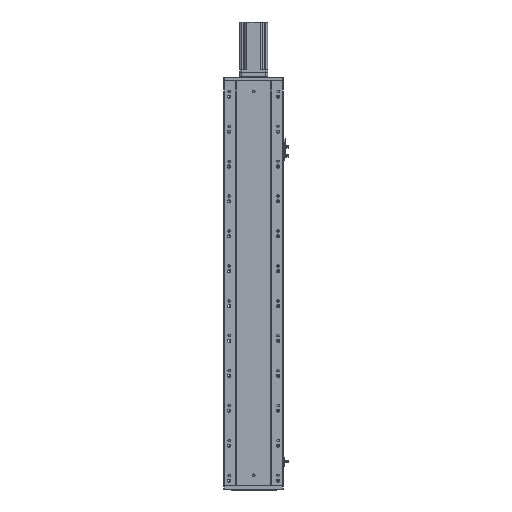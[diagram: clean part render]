
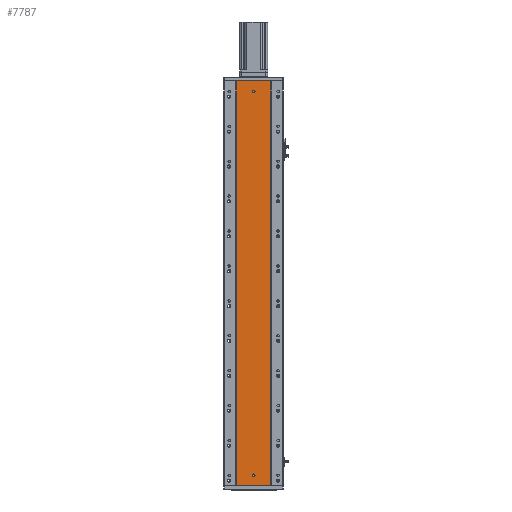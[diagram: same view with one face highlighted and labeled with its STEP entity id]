
A CAD part, front view. The second image highlights one B-rep face of the part: STEP entity #7787.
In plain terms, the highlighted planar face has unit normal (0, -1, 0).
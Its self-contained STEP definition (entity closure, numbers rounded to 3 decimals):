
#2269 = CARTESIAN_POINT ( 'NONE',  ( 86.97, 79.476, 773.333 ) ) ;
#2892 = LINE ( 'NONE', #17102, #9362 ) ;
#3031 = DIRECTION ( 'NONE',  ( 0., 0., 1. ) ) ;
#3410 = VERTEX_POINT ( 'NONE', #67986 ) ;
#4419 = DIRECTION ( 'NONE',  ( 1., 0., 0. ) ) ;
#4505 = CARTESIAN_POINT ( 'NONE',  ( 185.97, 79.476, 773.333 ) ) ;
#4956 = VERTEX_POINT ( 'NONE', #10331 ) ;
#6942 = EDGE_LOOP ( 'NONE', ( #61838, #47472, #66153, #36035 ) ) ;
#7100 = CARTESIAN_POINT ( 'NONE',  ( 136.47, 79.476, 1130. ) ) ;
#7787 = ADVANCED_FACE ( 'NONE', ( #21523, #26175, #19669 ), #32038, .F. ) ;
#8013 = AXIS2_PLACEMENT_3D ( 'NONE', #48862, #43734, #3031 ) ;
#8146 = CIRCLE ( 'NONE', #68689, 4. ) ;
#8675 = CARTESIAN_POINT ( 'NONE',  ( 86.97, 79.476, 386.667 ) ) ;
#9362 = VECTOR ( 'NONE', #40953, 1000. ) ;
#10331 = CARTESIAN_POINT ( 'NONE',  ( 185.97, 79.476, 1160. ) ) ;
#11907 = DIRECTION ( 'NONE',  ( 0., 0., -1. ) ) ;
#12434 = DIRECTION ( 'NONE',  ( 0., -1., 0. ) ) ;
#12934 = DIRECTION ( 'NONE',  ( 0., 0., -1. ) ) ;
#13605 = VERTEX_POINT ( 'NONE', #49172 ) ;
#14253 = CARTESIAN_POINT ( 'NONE',  ( 86.97, 79.476, 0. ) ) ;
#14311 = CARTESIAN_POINT ( 'NONE',  ( 86.97, 79.476, 0. ) ) ;
#15259 = VERTEX_POINT ( 'NONE', #32362 ) ;
#15987 = EDGE_CURVE ( 'NONE', #59795, #64553, #16523, .T. ) ;
#16204 = DIRECTION ( 'NONE',  ( 0., -1., 0. ) ) ;
#16523 = CIRCLE ( 'NONE', #38888, 4. ) ;
#17102 = CARTESIAN_POINT ( 'NONE',  ( 0., 79.476, 0. ) ) ;
#19669 = FACE_OUTER_BOUND ( 'NONE', #6942, .T. ) ;
#20555 = ORIENTED_EDGE ( 'NONE', *, *, #68532, .F. ) ;
#21523 = FACE_BOUND ( 'NONE', #68245, .T. ) ;
#21859 = EDGE_CURVE ( 'NONE', #28006, #4956, #67795, .T. ) ;
#22764 = B_SPLINE_CURVE_WITH_KNOTS ( 'NONE', 3,
 ( #54823, #2269, #8675, #14253 ),
 .UNSPECIFIED., .F., .F.,
 ( 4, 4 ),
 ( 0., 1. ),
 .UNSPECIFIED. ) ;
#25384 = ORIENTED_EDGE ( 'NONE', *, *, #64879, .F. ) ;
#26175 = FACE_BOUND ( 'NONE', #68676, .T. ) ;
#27157 = CARTESIAN_POINT ( 'NONE',  ( 136.47, 79.476, 1126. ) ) ;
#28006 = VERTEX_POINT ( 'NONE', #44945 ) ;
#29974 = CARTESIAN_POINT ( 'NONE',  ( 136.47, 79.476, 1134. ) ) ;
#30582 = DIRECTION ( 'NONE',  ( 0., 0., -1. ) ) ;
#31166 = VECTOR ( 'NONE', #4419, 1000. ) ;
#32038 = PLANE ( 'NONE',  #8013 ) ;
#32362 = CARTESIAN_POINT ( 'NONE',  ( 185.97, 79.476, 0. ) ) ;
#33104 = EDGE_CURVE ( 'NONE', #28006, #39302, #22764, .T. ) ;
#34240 = CARTESIAN_POINT ( 'NONE',  ( 185.97, 79.476, 386.667 ) ) ;
#34490 = ORIENTED_EDGE ( 'NONE', *, *, #15987, .F. ) ;
#34493 = CARTESIAN_POINT ( 'NONE',  ( 185.97, 79.476, 0. ) ) ;
#35343 = EDGE_CURVE ( 'NONE', #39302, #15259, #2892, .T. ) ;
#35857 = AXIS2_PLACEMENT_3D ( 'NONE', #7100, #12434, #12934 ) ;
#36035 = ORIENTED_EDGE ( 'NONE', *, *, #33104, .T. ) ;
#37412 = CIRCLE ( 'NONE', #35857, 4. ) ;
#38888 = AXIS2_PLACEMENT_3D ( 'NONE', #75409, #16204, #63386 ) ;
#39302 = VERTEX_POINT ( 'NONE', #14311 ) ;
#40953 = DIRECTION ( 'NONE',  ( 1., 0., 0. ) ) ;
#42301 = CARTESIAN_POINT ( 'NONE',  ( 136.47, 79.476, 30. ) ) ;
#43734 = DIRECTION ( 'NONE',  ( 0., 1., 0. ) ) ;
#44945 = CARTESIAN_POINT ( 'NONE',  ( 86.97, 79.476, 1160. ) ) ;
#46394 = EDGE_CURVE ( 'NONE', #4956, #15259, #69249, .T. ) ;
#47472 = ORIENTED_EDGE ( 'NONE', *, *, #46394, .F. ) ;
#47921 = DIRECTION ( 'NONE',  ( 0., -1., 0. ) ) ;
#48862 = CARTESIAN_POINT ( 'NONE',  ( 0., 79.476, 1160. ) ) ;
#49172 = CARTESIAN_POINT ( 'NONE',  ( 136.47, 79.476, 34. ) ) ;
#52947 = DIRECTION ( 'NONE',  ( 0., -1., 0. ) ) ;
#54823 = CARTESIAN_POINT ( 'NONE',  ( 86.97, 79.476, 1160. ) ) ;
#56676 = EDGE_CURVE ( 'NONE', #3410, #13605, #8146, .T. ) ;
#59118 = CARTESIAN_POINT ( 'NONE',  ( 136.47, 79.476, 30. ) ) ;
#59795 = VERTEX_POINT ( 'NONE', #29974 ) ;
#61838 = ORIENTED_EDGE ( 'NONE', *, *, #35343, .T. ) ;
#62034 = ORIENTED_EDGE ( 'NONE', *, *, #56676, .F. ) ;
#62538 = CIRCLE ( 'NONE', #69891, 4. ) ;
#63386 = DIRECTION ( 'NONE',  ( 0., 0., -1. ) ) ;
#63692 = CARTESIAN_POINT ( 'NONE',  ( 185.97, 79.476, 1160. ) ) ;
#64553 = VERTEX_POINT ( 'NONE', #27157 ) ;
#64879 = EDGE_CURVE ( 'NONE', #64553, #59795, #37412, .T. ) ;
#66153 = ORIENTED_EDGE ( 'NONE', *, *, #21859, .F. ) ;
#67795 = LINE ( 'NONE', #68207, #31166 ) ;
#67986 = CARTESIAN_POINT ( 'NONE',  ( 136.47, 79.476, 26. ) ) ;
#68207 = CARTESIAN_POINT ( 'NONE',  ( 0., 79.476, 1160. ) ) ;
#68245 = EDGE_LOOP ( 'NONE', ( #25384, #34490 ) ) ;
#68532 = EDGE_CURVE ( 'NONE', #13605, #3410, #62538, .T. ) ;
#68676 = EDGE_LOOP ( 'NONE', ( #62034, #20555 ) ) ;
#68689 = AXIS2_PLACEMENT_3D ( 'NONE', #59118, #52947, #11907 ) ;
#69249 = B_SPLINE_CURVE_WITH_KNOTS ( 'NONE', 3,
 ( #63692, #4505, #34240, #34493 ),
 .UNSPECIFIED., .F., .F.,
 ( 4, 4 ),
 ( 0., 1. ),
 .UNSPECIFIED. ) ;
#69891 = AXIS2_PLACEMENT_3D ( 'NONE', #42301, #47921, #30582 ) ;
#75409 = CARTESIAN_POINT ( 'NONE',  ( 136.47, 79.476, 1130. ) ) ;
